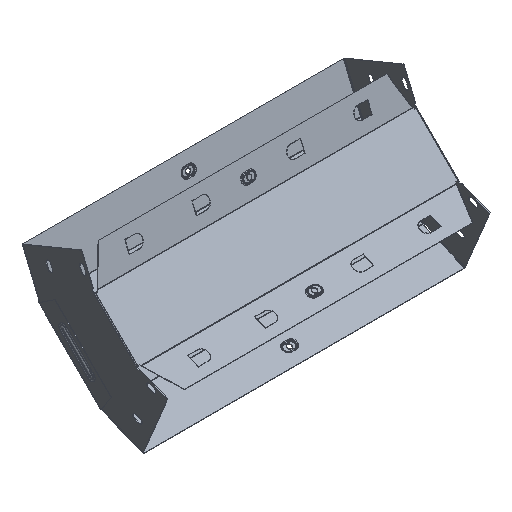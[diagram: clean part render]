
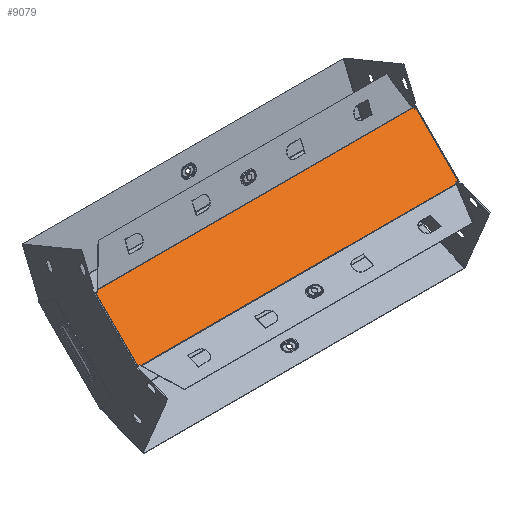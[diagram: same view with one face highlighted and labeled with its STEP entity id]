
A CAD part, isometric view. The second image highlights one B-rep face of the part: STEP entity #9079.
In plain terms, the highlighted planar face has unit normal (0, -0.707, 0.707).
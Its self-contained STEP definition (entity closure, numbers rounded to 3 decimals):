
#118 = CARTESIAN_POINT ( 'NONE',  ( -248.2, 69.245, -2.873 ) ) ;
#120 = DIRECTION ( 'NONE',  ( -0.383, -0.653, -0.653 ) ) ;
#268 = CARTESIAN_POINT ( 'NONE',  ( -244.345, 2.258, -69.859 ) ) ;
#701 = LINE ( 'NONE', #6047, #8910 ) ;
#753 = CARTESIAN_POINT ( 'NONE',  ( 244.345, 69.859, -2.258 ) ) ;
#783 = VECTOR ( 'NONE', #1503, 1000. ) ;
#810 = VERTEX_POINT ( 'NONE', #10558 ) ;
#860 = CARTESIAN_POINT ( 'NONE',  ( 248.2, 70., -2.118 ) ) ;
#1037 = CARTESIAN_POINT ( 'NONE',  ( 244.345, 2.258, -69.859 ) ) ;
#1393 = LINE ( 'NONE', #4273, #2921 ) ;
#1503 = DIRECTION ( 'NONE',  ( 0.383, 0.653, 0.653 ) ) ;
#1512 = DIRECTION ( 'NONE',  ( -1., 0., 0. ) ) ;
#1661 = VERTEX_POINT ( 'NONE', #9637 ) ;
#1778 = VECTOR ( 'NONE', #11920, 1000. ) ;
#1791 = LINE ( 'NONE', #7408, #3471 ) ;
#1822 = VERTEX_POINT ( 'NONE', #1037 ) ;
#1830 = CARTESIAN_POINT ( 'NONE',  ( 245.217, 68.371, -3.747 ) ) ;
#1906 = ORIENTED_EDGE ( 'NONE', *, *, #8453, .T. ) ;
#2088 = VECTOR ( 'NONE', #11615, 1000. ) ;
#2406 = EDGE_CURVE ( 'NONE', #6955, #6324, #10951, .T. ) ;
#2601 = LINE ( 'NONE', #9504, #6316 ) ;
#2764 = CARTESIAN_POINT ( 'NONE',  ( 248.2, 70., -2.118 ) ) ;
#2921 = VECTOR ( 'NONE', #11053, 1000. ) ;
#2958 = EDGE_CURVE ( 'NONE', #6324, #12623, #1393, .T. ) ;
#3020 = VECTOR ( 'NONE', #12027, 1000. ) ;
#3460 = LINE ( 'NONE', #860, #9776 ) ;
#3471 = VECTOR ( 'NONE', #4467, 1000. ) ;
#3520 = CARTESIAN_POINT ( 'NONE',  ( 250.299, 2.258, -69.859 ) ) ;
#3723 = ORIENTED_EDGE ( 'NONE', *, *, #10169, .T. ) ;
#3786 = CARTESIAN_POINT ( 'NONE',  ( 248.2, 2.873, -69.245 ) ) ;
#3837 = ORIENTED_EDGE ( 'NONE', *, *, #2406, .T. ) ;
#3894 = LINE ( 'NONE', #3520, #11858 ) ;
#3904 = DIRECTION ( 'NONE',  ( 0., 0.707, -0.707 ) ) ;
#4273 = CARTESIAN_POINT ( 'NONE',  ( 248.2, 69.859, -2.258 ) ) ;
#4458 = ORIENTED_EDGE ( 'NONE', *, *, #5586, .T. ) ;
#4467 = DIRECTION ( 'NONE',  ( 0., -0.707, -0.707 ) ) ;
#4473 = ORIENTED_EDGE ( 'NONE', *, *, #12175, .T. ) ;
#4639 = CARTESIAN_POINT ( 'NONE',  ( -223.5, -33.327, -105.445 ) ) ;
#4746 = EDGE_CURVE ( 'NONE', #1822, #7112, #2601, .T. ) ;
#4855 = DIRECTION ( 'NONE',  ( 0., 0.707, 0.707 ) ) ;
#4962 = ORIENTED_EDGE ( 'NONE', *, *, #6493, .F. ) ;
#5082 = DIRECTION ( 'NONE',  ( -0.924, -0.271, -0.271 ) ) ;
#5117 = ORIENTED_EDGE ( 'NONE', *, *, #6448, .T. ) ;
#5238 = CARTESIAN_POINT ( 'NONE',  ( -250.299, 69.859, -2.258 ) ) ;
#5385 = DIRECTION ( 'NONE',  ( -0.383, 0.653, 0.653 ) ) ;
#5586 = EDGE_CURVE ( 'NONE', #6447, #6955, #12076, .T. ) ;
#5763 = PLANE ( 'NONE',  #10679 ) ;
#5991 = CARTESIAN_POINT ( 'NONE',  ( -245.217, 3.747, -68.371 ) ) ;
#6047 = CARTESIAN_POINT ( 'NONE',  ( -223.5, 105.445, 33.327 ) ) ;
#6268 = LINE ( 'NONE', #4639, #2088 ) ;
#6311 = CARTESIAN_POINT ( 'NONE',  ( -250.299, 2.258, -69.859 ) ) ;
#6316 = VECTOR ( 'NONE', #1512, 1000. ) ;
#6324 = VERTEX_POINT ( 'NONE', #753 ) ;
#6342 = LINE ( 'NONE', #11330, #783 ) ;
#6447 = VERTEX_POINT ( 'NONE', #11485 ) ;
#6448 = EDGE_CURVE ( 'NONE', #11356, #12083, #8896, .T. ) ;
#6475 = VERTEX_POINT ( 'NONE', #3786 ) ;
#6493 = EDGE_CURVE ( 'NONE', #6447, #6475, #3460, .T. ) ;
#6955 = VERTEX_POINT ( 'NONE', #1830 ) ;
#7050 = VECTOR ( 'NONE', #5082, 1000. ) ;
#7106 = CARTESIAN_POINT ( 'NONE',  ( 250.299, 69.859, -2.258 ) ) ;
#7112 = VERTEX_POINT ( 'NONE', #268 ) ;
#7338 = DIRECTION ( 'NONE',  ( 0.924, -0.271, -0.271 ) ) ;
#7408 = CARTESIAN_POINT ( 'NONE',  ( -248.2, 70., -2.118 ) ) ;
#8288 = ORIENTED_EDGE ( 'NONE', *, *, #11161, .T. ) ;
#8339 = FACE_OUTER_BOUND ( 'NONE', #9871, .T. ) ;
#8359 = CARTESIAN_POINT ( 'NONE',  ( 223.5, 105.445, 33.327 ) ) ;
#8371 = VECTOR ( 'NONE', #5385, 1000. ) ;
#8453 = EDGE_CURVE ( 'NONE', #1822, #1661, #6342, .T. ) ;
#8896 = LINE ( 'NONE', #6311, #1778 ) ;
#8910 = VECTOR ( 'NONE', #120, 1000. ) ;
#8920 = VERTEX_POINT ( 'NONE', #118 ) ;
#9079 = ADVANCED_FACE ( 'NONE', ( #8339 ), #5763, .F. ) ;
#9504 = CARTESIAN_POINT ( 'NONE',  ( 248.2, 2.258, -69.859 ) ) ;
#9510 = ORIENTED_EDGE ( 'NONE', *, *, #12087, .T. ) ;
#9598 = ORIENTED_EDGE ( 'NONE', *, *, #2958, .T. ) ;
#9637 = CARTESIAN_POINT ( 'NONE',  ( 245.217, 3.747, -68.371 ) ) ;
#9776 = VECTOR ( 'NONE', #9842, 1000. ) ;
#9808 = LINE ( 'NONE', #5238, #3020 ) ;
#9842 = DIRECTION ( 'NONE',  ( 0., -0.707, -0.707 ) ) ;
#9871 = EDGE_LOOP ( 'NONE', ( #4473, #10850, #1906, #8288, #4962, #4458, #3837, #9598, #9510, #3723, #12567, #5117 ) ) ;
#10169 = EDGE_CURVE ( 'NONE', #810, #8920, #9808, .T. ) ;
#10558 = CARTESIAN_POINT ( 'NONE',  ( -245.217, 68.371, -3.747 ) ) ;
#10679 = AXIS2_PLACEMENT_3D ( 'NONE', #2764, #3904, #4855 ) ;
#10850 = ORIENTED_EDGE ( 'NONE', *, *, #4746, .F. ) ;
#10951 = LINE ( 'NONE', #8359, #8371 ) ;
#11053 = DIRECTION ( 'NONE',  ( -1., 0., 0. ) ) ;
#11161 = EDGE_CURVE ( 'NONE', #1661, #6475, #3894, .T. ) ;
#11330 = CARTESIAN_POINT ( 'NONE',  ( 223.5, -33.327, -105.445 ) ) ;
#11356 = VERTEX_POINT ( 'NONE', #11797 ) ;
#11485 = CARTESIAN_POINT ( 'NONE',  ( 248.2, 69.245, -2.873 ) ) ;
#11615 = DIRECTION ( 'NONE',  ( 0.383, -0.653, -0.653 ) ) ;
#11747 = EDGE_CURVE ( 'NONE', #8920, #11356, #1791, .T. ) ;
#11797 = CARTESIAN_POINT ( 'NONE',  ( -248.2, 2.873, -69.245 ) ) ;
#11858 = VECTOR ( 'NONE', #7338, 1000. ) ;
#11901 = CARTESIAN_POINT ( 'NONE',  ( -244.345, 69.859, -2.258 ) ) ;
#11920 = DIRECTION ( 'NONE',  ( 0.924, 0.271, 0.271 ) ) ;
#12027 = DIRECTION ( 'NONE',  ( -0.924, 0.271, 0.271 ) ) ;
#12076 = LINE ( 'NONE', #7106, #7050 ) ;
#12083 = VERTEX_POINT ( 'NONE', #5991 ) ;
#12087 = EDGE_CURVE ( 'NONE', #12623, #810, #701, .T. ) ;
#12175 = EDGE_CURVE ( 'NONE', #12083, #7112, #6268, .T. ) ;
#12567 = ORIENTED_EDGE ( 'NONE', *, *, #11747, .T. ) ;
#12623 = VERTEX_POINT ( 'NONE', #11901 ) ;
